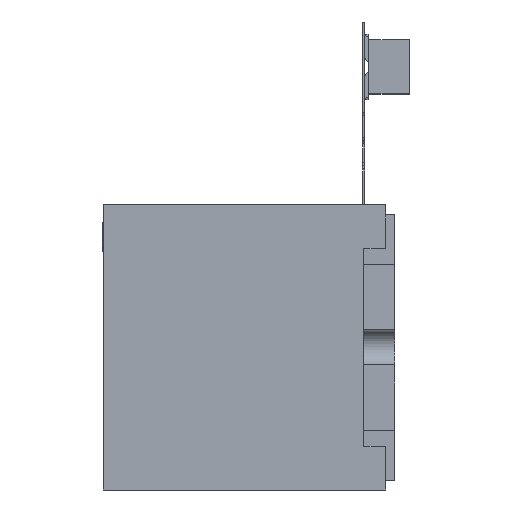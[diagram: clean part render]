
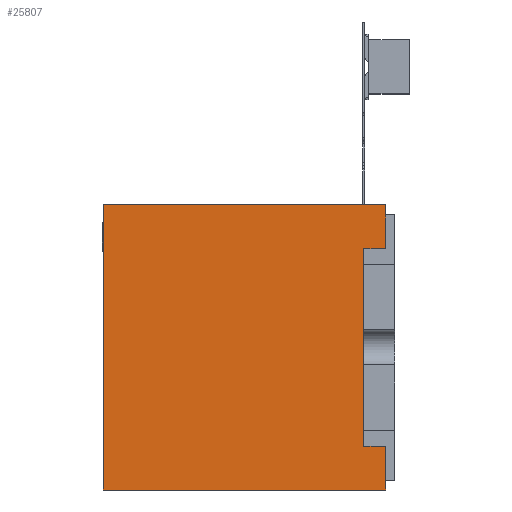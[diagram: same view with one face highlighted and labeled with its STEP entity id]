
A CAD part, left-side view. The second image highlights one B-rep face of the part: STEP entity #25807.
In plain terms, the highlighted planar face has unit normal (-1, 0, 0).
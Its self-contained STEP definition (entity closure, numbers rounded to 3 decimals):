
#118 = ORIENTED_EDGE ( 'NONE', *, *, #25920, .T. ) ;
#24081 = VERTEX_POINT ( 'NONE', #39484 ) ;
#24085 = EDGE_CURVE ( 'NONE', #24081, #24087, #39483, .T. ) ;
#24087 = VERTEX_POINT ( 'NONE', #39479 ) ;
#25317 = EDGE_CURVE ( 'NONE', #24087, #25318, #41530, .T. ) ;
#25318 = VERTEX_POINT ( 'NONE', #41526 ) ;
#25744 = VERTEX_POINT ( 'NONE', #42246 ) ;
#25749 = EDGE_CURVE ( 'NONE', #25750, #25744, #42244, .T. ) ;
#25750 = VERTEX_POINT ( 'NONE', #42240 ) ;
#25807 = ADVANCED_FACE ( 'NONE', ( #42341 ), #42370, .F. ) ;
#25810 = EDGE_LOOP ( 'NONE', ( #25811, #25812, #25816, #25820, #118, #25921, #25923, #25924 ) ) ;
#25811 = ORIENTED_EDGE ( 'NONE', *, *, #25749, .T. ) ;
#25812 = ORIENTED_EDGE ( 'NONE', *, *, #25813, .F. ) ;
#25813 = EDGE_CURVE ( 'NONE', #25815, #25744, #42365, .T. ) ;
#25815 = VERTEX_POINT ( 'NONE', #42361 ) ;
#25816 = ORIENTED_EDGE ( 'NONE', *, *, #25817, .F. ) ;
#25817 = EDGE_CURVE ( 'NONE', #25819, #25815, #42360, .T. ) ;
#25819 = VERTEX_POINT ( 'NONE', #42356 ) ;
#25820 = ORIENTED_EDGE ( 'NONE', *, *, #25821, .F. ) ;
#25821 = EDGE_CURVE ( 'NONE', #25822, #25819, #42355, .T. ) ;
#25822 = VERTEX_POINT ( 'NONE', #42351 ) ;
#25835 = EDGE_CURVE ( 'NONE', #24081, #25750, #42379, .T. ) ;
#25920 = EDGE_CURVE ( 'NONE', #25822, #25318, #42493, .T. ) ;
#25921 = ORIENTED_EDGE ( 'NONE', *, *, #25317, .F. ) ;
#25923 = ORIENTED_EDGE ( 'NONE', *, *, #24085, .F. ) ;
#25924 = ORIENTED_EDGE ( 'NONE', *, *, #25835, .T. ) ;
#39479 = CARTESIAN_POINT ( 'NONE',  ( -11.6, 22.49, 11.355 ) ) ;
#39480 = DIRECTION ( 'NONE',  ( 0., 0., 1. ) ) ;
#39481 = VECTOR ( 'NONE', #39480, 1000. ) ;
#39482 = CARTESIAN_POINT ( 'NONE',  ( -11.6, 22.49, 11.355 ) ) ;
#39483 = LINE ( 'NONE', #39482, #39481 ) ;
#39484 = CARTESIAN_POINT ( 'NONE',  ( -11.6, 22.49, -11.355 ) ) ;
#41526 = CARTESIAN_POINT ( 'NONE',  ( -11.6, 0., 11.355 ) ) ;
#41527 = DIRECTION ( 'NONE',  ( 0., -1., 0. ) ) ;
#41528 = VECTOR ( 'NONE', #41527, 1000. ) ;
#41529 = CARTESIAN_POINT ( 'NONE',  ( -11.6, 22.49, 11.355 ) ) ;
#41530 = LINE ( 'NONE', #41529, #41528 ) ;
#42240 = CARTESIAN_POINT ( 'NONE',  ( -11.6, 0., -11.355 ) ) ;
#42241 = DIRECTION ( 'NONE',  ( 0., 0., 1. ) ) ;
#42242 = VECTOR ( 'NONE', #42241, 1000. ) ;
#42243 = CARTESIAN_POINT ( 'NONE',  ( -11.6, 0., 11.355 ) ) ;
#42244 = LINE ( 'NONE', #42243, #42242 ) ;
#42246 = CARTESIAN_POINT ( 'NONE',  ( -11.6, 0., -7.855 ) ) ;
#42341 = FACE_OUTER_BOUND ( 'NONE', #25810, .T. ) ;
#42351 = CARTESIAN_POINT ( 'NONE',  ( -11.6, 0., 7.855 ) ) ;
#42352 = DIRECTION ( 'NONE',  ( 0., 1., 0. ) ) ;
#42353 = VECTOR ( 'NONE', #42352, 1000. ) ;
#42354 = CARTESIAN_POINT ( 'NONE',  ( -11.6, -1.74, 7.855 ) ) ;
#42355 = LINE ( 'NONE', #42354, #42353 ) ;
#42356 = CARTESIAN_POINT ( 'NONE',  ( -11.6, 1.74, 7.855 ) ) ;
#42357 = DIRECTION ( 'NONE',  ( 0., 0., -1. ) ) ;
#42358 = VECTOR ( 'NONE', #42357, 1000. ) ;
#42359 = CARTESIAN_POINT ( 'NONE',  ( -11.6, 1.74, 7.855 ) ) ;
#42360 = LINE ( 'NONE', #42359, #42358 ) ;
#42361 = CARTESIAN_POINT ( 'NONE',  ( -11.6, 1.74, -7.855 ) ) ;
#42362 = DIRECTION ( 'NONE',  ( 0., -1., 0. ) ) ;
#42363 = VECTOR ( 'NONE', #42362, 1000. ) ;
#42364 = CARTESIAN_POINT ( 'NONE',  ( -11.6, -1.74, -7.855 ) ) ;
#42365 = LINE ( 'NONE', #42364, #42363 ) ;
#42366 = DIRECTION ( 'NONE',  ( 0., 0., -1. ) ) ;
#42367 = DIRECTION ( 'NONE',  ( 1., 0., 0. ) ) ;
#42368 = CARTESIAN_POINT ( 'NONE',  ( -11.6, 22.49, 11.355 ) ) ;
#42369 = AXIS2_PLACEMENT_3D ( 'NONE', #42368, #42367, #42366 ) ;
#42370 = PLANE ( 'NONE',  #42369 ) ;
#42376 = DIRECTION ( 'NONE',  ( 0., -1., 0. ) ) ;
#42377 = VECTOR ( 'NONE', #42376, 1000. ) ;
#42378 = CARTESIAN_POINT ( 'NONE',  ( -11.6, 22.49, -11.355 ) ) ;
#42379 = LINE ( 'NONE', #42378, #42377 ) ;
#42490 = DIRECTION ( 'NONE',  ( 0., 0., 1. ) ) ;
#42491 = VECTOR ( 'NONE', #42490, 1000. ) ;
#42492 = CARTESIAN_POINT ( 'NONE',  ( -11.6, 0., 11.355 ) ) ;
#42493 = LINE ( 'NONE', #42492, #42491 ) ;
